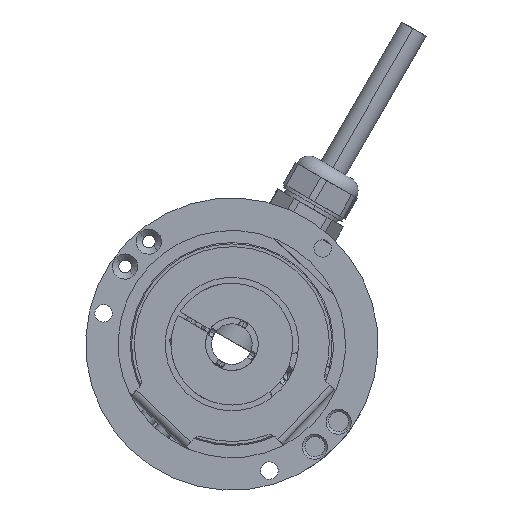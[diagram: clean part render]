
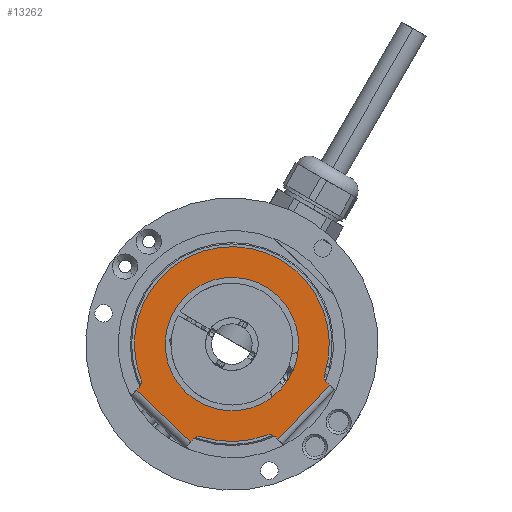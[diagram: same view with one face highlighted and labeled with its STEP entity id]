
A CAD part, left-side view. The second image highlights one B-rep face of the part: STEP entity #13262.
In plain terms, the highlighted planar face has unit normal (-1, 0, 0).
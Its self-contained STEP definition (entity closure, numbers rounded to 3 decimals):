
#13144 = VERTEX_POINT ( 'NONE', #21361 ) ;
#13150 = VERTEX_POINT ( 'NONE', #21354 ) ;
#13162 = ORIENTED_EDGE ( 'NONE', *, *, #13216, .T. ) ;
#13171 = EDGE_CURVE ( 'NONE', #13150, #13144, #21459, .T. ) ;
#13203 = VERTEX_POINT ( 'NONE', #21548 ) ;
#13206 = VERTEX_POINT ( 'NONE', #21580 ) ;
#13207 = EDGE_CURVE ( 'NONE', #13295, #13211, #21579, .T. ) ;
#13209 = ORIENTED_EDGE ( 'NONE', *, *, #13212, .T. ) ;
#13210 = VERTEX_POINT ( 'NONE', #21569 ) ;
#13211 = VERTEX_POINT ( 'NONE', #21568 ) ;
#13212 = EDGE_CURVE ( 'NONE', #13211, #13320, #21565, .T. ) ;
#13216 = EDGE_CURVE ( 'NONE', #13203, #13206, #21619, .T. ) ;
#13230 = ORIENTED_EDGE ( 'NONE', *, *, #13233, .T. ) ;
#13231 = VERTEX_POINT ( 'NONE', #21595 ) ;
#13232 = EDGE_CURVE ( 'NONE', #13238, #13241, #21593, .T. ) ;
#13233 = EDGE_CURVE ( 'NONE', #13239, #13238, #13481, .T. ) ;
#13234 = ORIENTED_EDGE ( 'NONE', *, *, #13232, .T. ) ;
#13235 = EDGE_CURVE ( 'NONE', #13241, #13203, #21657, .T. ) ;
#13236 = ORIENTED_EDGE ( 'NONE', *, *, #13235, .T. ) ;
#13237 = ORIENTED_EDGE ( 'NONE', *, *, #13243, .T. ) ;
#13238 = VERTEX_POINT ( 'NONE', #21653 ) ;
#13239 = VERTEX_POINT ( 'NONE', #21652 ) ;
#13241 = VERTEX_POINT ( 'NONE', #21651 ) ;
#13242 = ORIENTED_EDGE ( 'NONE', *, *, #13401, .T. ) ;
#13243 = EDGE_CURVE ( 'NONE', #13231, #13239, #21650, .T. ) ;
#13249 = EDGE_CURVE ( 'NONE', #13210, #13412, #21676, .T. ) ;
#13262 = ADVANCED_FACE ( 'NONE', ( #21713, #21712 ), #21694, .T. ) ;
#13263 = EDGE_LOOP ( 'NONE', ( #13266, #13242, #13237, #13230, #13234, #13236, #13162, #13292, #13296, #13209, #13319, #13317, #13322 ) ) ;
#13266 = ORIENTED_EDGE ( 'NONE', *, *, #13249, .T. ) ;
#13292 = ORIENTED_EDGE ( 'NONE', *, *, #13294, .T. ) ;
#13294 = EDGE_CURVE ( 'NONE', #13206, #13295, #21815, .T. ) ;
#13295 = VERTEX_POINT ( 'NONE', #21873 ) ;
#13296 = ORIENTED_EDGE ( 'NONE', *, *, #13207, .T. ) ;
#13298 = EDGE_CURVE ( 'NONE', #13144, #13150, #21872, .T. ) ;
#13302 = EDGE_LOOP ( 'NONE', ( #13308, #13309 ) ) ;
#13308 = ORIENTED_EDGE ( 'NONE', *, *, #13171, .F. ) ;
#13309 = ORIENTED_EDGE ( 'NONE', *, *, #13298, .F. ) ;
#13317 = ORIENTED_EDGE ( 'NONE', *, *, #13333, .T. ) ;
#13319 = ORIENTED_EDGE ( 'NONE', *, *, #13330, .T. ) ;
#13320 = VERTEX_POINT ( 'NONE', #21897 ) ;
#13321 = EDGE_CURVE ( 'NONE', #13336, #13210, #21895, .T. ) ;
#13322 = ORIENTED_EDGE ( 'NONE', *, *, #13321, .T. ) ;
#13327 = VERTEX_POINT ( 'NONE', #21890 ) ;
#13330 = EDGE_CURVE ( 'NONE', #13320, #13327, #21883, .T. ) ;
#13333 = EDGE_CURVE ( 'NONE', #13327, #13336, #21914, .T. ) ;
#13336 = VERTEX_POINT ( 'NONE', #21910 ) ;
#13401 = EDGE_CURVE ( 'NONE', #13412, #13231, #22178, .T. ) ;
#13412 = VERTEX_POINT ( 'NONE', #22151 ) ;
#13481 = LINE ( 'NONE', #13482, #21659 ) ;
#13482 = CARTESIAN_POINT ( 'NONE',  ( -2.2, 21.954, -9.697 ) ) ;
#21354 = CARTESIAN_POINT ( 'NONE',  ( -2.2, 11.914, 11.306 ) ) ;
#21361 = CARTESIAN_POINT ( 'NONE',  ( -2.2, -11.914, -11.306 ) ) ;
#21451 = DIRECTION ( 'NONE',  ( 0., -0.725, -0.688 ) ) ;
#21452 = DIRECTION ( 'NONE',  ( -1., 0., 0. ) ) ;
#21453 = CARTESIAN_POINT ( 'NONE',  ( -2.2, 0., 0. ) ) ;
#21454 = AXIS2_PLACEMENT_3D ( 'NONE', #21453, #21452, #21451 ) ;
#21459 = CIRCLE ( 'NONE', #21454, 16.425 ) ;
#21548 = CARTESIAN_POINT ( 'NONE',  ( -2.2, 9.425, -23.37 ) ) ;
#21561 = DIRECTION ( 'NONE',  ( 0., -0.725, -0.688 ) ) ;
#21563 = VECTOR ( 'NONE', #21561, 1000. ) ;
#21564 = CARTESIAN_POINT ( 'NONE',  ( -2.2, -9.697, -21.954 ) ) ;
#21565 = LINE ( 'NONE', #21564, #21563 ) ;
#21568 = CARTESIAN_POINT ( 'NONE',  ( -2.2, -10.636, -22.845 ) ) ;
#21569 = CARTESIAN_POINT ( 'NONE',  ( -2.2, -22.843, -7.361 ) ) ;
#21575 = DIRECTION ( 'NONE',  ( 0., -0.725, -0.688 ) ) ;
#21576 = DIRECTION ( 'NONE',  ( 1., 0., 0. ) ) ;
#21577 = CARTESIAN_POINT ( 'NONE',  ( -2.2, -9.259, -24.296 ) ) ;
#21578 = AXIS2_PLACEMENT_3D ( 'NONE', #21577, #21576, #21575 ) ;
#21579 = CIRCLE ( 'NONE', #21578, 2. ) ;
#21580 = CARTESIAN_POINT ( 'NONE',  ( -2.2, 7.361, -22.843 ) ) ;
#21589 = DIRECTION ( 'NONE',  ( 0., -0.725, -0.688 ) ) ;
#21591 = VECTOR ( 'NONE', #21589, 1000. ) ;
#21592 = CARTESIAN_POINT ( 'NONE',  ( -2.2, 16.796, -17.699 ) ) ;
#21593 = LINE ( 'NONE', #21592, #21591 ) ;
#21595 = CARTESIAN_POINT ( 'NONE',  ( -2.2, 22.427, -8.547 ) ) ;
#21615 = DIRECTION ( 'NONE',  ( 0., -0.725, -0.688 ) ) ;
#21616 = DIRECTION ( 'NONE',  ( 1., 0., 0. ) ) ;
#21617 = CARTESIAN_POINT ( 'NONE',  ( -2.2, 7.975, -24.747 ) ) ;
#21618 = AXIS2_PLACEMENT_3D ( 'NONE', #21617, #21616, #21615 ) ;
#21619 = CIRCLE ( 'NONE', #21618, 2. ) ;
#21646 = DIRECTION ( 'NONE',  ( 0., -0.725, -0.688 ) ) ;
#21647 = DIRECTION ( 'NONE',  ( 1., 0., 0. ) ) ;
#21648 = CARTESIAN_POINT ( 'NONE',  ( -2.2, 24.296, -9.259 ) ) ;
#21649 = AXIS2_PLACEMENT_3D ( 'NONE', #21648, #21647, #21646 ) ;
#21650 = CIRCLE ( 'NONE', #21649, 2. ) ;
#21651 = CARTESIAN_POINT ( 'NONE',  ( -2.2, 10.086, -24.066 ) ) ;
#21652 = CARTESIAN_POINT ( 'NONE',  ( -2.2, 22.845, -10.636 ) ) ;
#21653 = CARTESIAN_POINT ( 'NONE',  ( -2.2, 23.506, -11.332 ) ) ;
#21654 = DIRECTION ( 'NONE',  ( 0., -0.688, 0.725 ) ) ;
#21655 = VECTOR ( 'NONE', #21654, 1000. ) ;
#21656 = CARTESIAN_POINT ( 'NONE',  ( -2.2, 8.534, -22.431 ) ) ;
#21657 = LINE ( 'NONE', #21656, #21655 ) ;
#21658 = DIRECTION ( 'NONE',  ( 0., 0.688, -0.725 ) ) ;
#21659 = VECTOR ( 'NONE', #21658, 1000. ) ;
#21672 = DIRECTION ( 'NONE',  ( 0., -0.725, -0.688 ) ) ;
#21673 = DIRECTION ( 'NONE',  ( -1., 0., 0. ) ) ;
#21674 = CARTESIAN_POINT ( 'NONE',  ( -2.2, 0., 0. ) ) ;
#21675 = AXIS2_PLACEMENT_3D ( 'NONE', #21674, #21673, #21672 ) ;
#21676 = CIRCLE ( 'NONE', #21675, 24. ) ;
#21690 = DIRECTION ( 'NONE',  ( 0., -0.725, -0.688 ) ) ;
#21691 = DIRECTION ( 'NONE',  ( -1., 0., 0. ) ) ;
#21692 = CARTESIAN_POINT ( 'NONE',  ( -2.2, 0., 0. ) ) ;
#21693 = AXIS2_PLACEMENT_3D ( 'NONE', #21692, #21691, #21690 ) ;
#21694 = PLANE ( 'NONE',  #21693 ) ;
#21712 = FACE_BOUND ( 'NONE', #13302, .T. ) ;
#21713 = FACE_OUTER_BOUND ( 'NONE', #13263, .T. ) ;
#21810 = AXIS2_PLACEMENT_3D ( 'NONE', #21876, #21875, #21874 ) ;
#21815 = CIRCLE ( 'NONE', #21810, 24. ) ;
#21867 = DIRECTION ( 'NONE',  ( 0., -0.725, -0.688 ) ) ;
#21869 = DIRECTION ( 'NONE',  ( -1., 0., 0. ) ) ;
#21870 = CARTESIAN_POINT ( 'NONE',  ( -2.2, 0., 0. ) ) ;
#21871 = AXIS2_PLACEMENT_3D ( 'NONE', #21870, #21869, #21867 ) ;
#21872 = CIRCLE ( 'NONE', #21871, 16.425 ) ;
#21873 = CARTESIAN_POINT ( 'NONE',  ( -2.2, -8.547, -22.427 ) ) ;
#21874 = DIRECTION ( 'NONE',  ( 0., -0.725, -0.688 ) ) ;
#21875 = DIRECTION ( 'NONE',  ( -1., 0., 0. ) ) ;
#21876 = CARTESIAN_POINT ( 'NONE',  ( -2.2, 0., 0. ) ) ;
#21880 = DIRECTION ( 'NONE',  ( 0., -0.688, 0.725 ) ) ;
#21881 = VECTOR ( 'NONE', #21880, 1000. ) ;
#21882 = CARTESIAN_POINT ( 'NONE',  ( -2.2, -24.066, -10.086 ) ) ;
#21883 = LINE ( 'NONE', #21882, #21881 ) ;
#21890 = CARTESIAN_POINT ( 'NONE',  ( -2.2, -24.066, -10.086 ) ) ;
#21891 = DIRECTION ( 'NONE',  ( 0., -0.725, -0.688 ) ) ;
#21892 = DIRECTION ( 'NONE',  ( 1., 0., 0. ) ) ;
#21893 = CARTESIAN_POINT ( 'NONE',  ( -2.2, -24.747, -7.975 ) ) ;
#21894 = AXIS2_PLACEMENT_3D ( 'NONE', #21893, #21892, #21891 ) ;
#21895 = CIRCLE ( 'NONE', #21894, 2. ) ;
#21897 = CARTESIAN_POINT ( 'NONE',  ( -2.2, -11.332, -23.506 ) ) ;
#21910 = CARTESIAN_POINT ( 'NONE',  ( -2.2, -23.37, -9.425 ) ) ;
#21911 = DIRECTION ( 'NONE',  ( 0., 0.725, 0.688 ) ) ;
#21912 = VECTOR ( 'NONE', #21911, 1000. ) ;
#21913 = CARTESIAN_POINT ( 'NONE',  ( -2.2, -22.431, -8.534 ) ) ;
#21914 = LINE ( 'NONE', #21913, #21912 ) ;
#22151 = CARTESIAN_POINT ( 'NONE',  ( -2.2, 17.409, 16.521 ) ) ;
#22174 = DIRECTION ( 'NONE',  ( 0., -0.725, -0.688 ) ) ;
#22175 = DIRECTION ( 'NONE',  ( -1., 0., 0. ) ) ;
#22176 = CARTESIAN_POINT ( 'NONE',  ( -2.2, 0., 0. ) ) ;
#22177 = AXIS2_PLACEMENT_3D ( 'NONE', #22176, #22175, #22174 ) ;
#22178 = CIRCLE ( 'NONE', #22177, 24. ) ;
